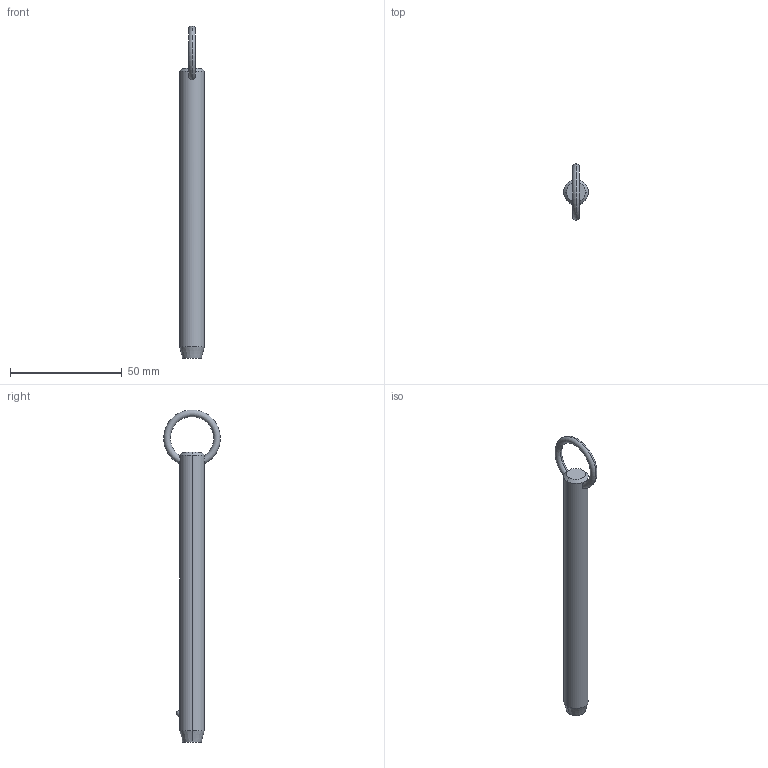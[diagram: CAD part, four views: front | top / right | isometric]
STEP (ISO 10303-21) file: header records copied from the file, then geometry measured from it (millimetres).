
FILE_DESCRIPTION (( 'STEP AP203' ), '1' );
FILE_NAME ('P1250.050-430.step', '2019-07-29T20:36:52', ( '' ), ( '' ), 'SwSTEP 2.0', 'SolidWorks 2017', '' );
FILE_SCHEMA (( 'CONFIG_CONTROL_DESIGN' ));
Length unit declared in the file: millimetre
Products named in the file (1): P1250.050-430
Bounding box: 11.1 x 25.32 x 148.75 mm (x, y, z)
Volume: 12843.3 mm3; surface area: 5179 mm2
Topology: 1 solids, 1 shells, 12 faces, 28 edges, 17 vertices
Faces by surface type: cone 4, torus 2, sphere 2, cylinder 2, plane 2
Entity records: 523 total; most frequent: CARTESIAN_POINT 190, DIRECTION 56, ORIENTED_EDGE 48, AXIS2_PLACEMENT_3D 25, EDGE_CURVE 24, VERTEX_POINT 15, EDGE_LOOP 15, FACE_OUTER_BOUND 12
